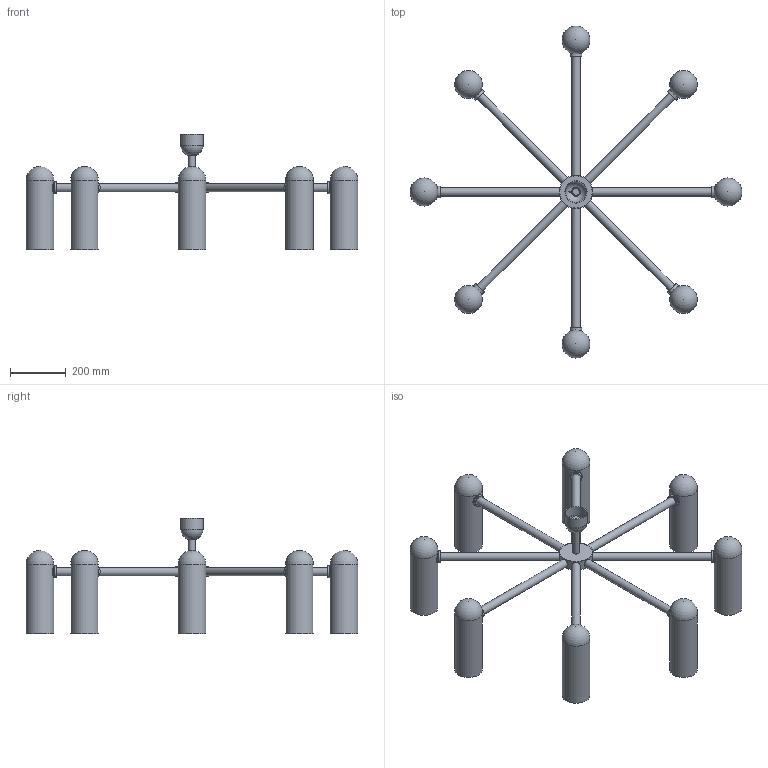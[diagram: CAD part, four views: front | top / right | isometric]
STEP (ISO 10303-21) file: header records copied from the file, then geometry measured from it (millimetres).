
FILE_DESCRIPTION(/* description */ (''),/* implementation_level */ '2;1');
FILE_NAME(/* name */ 'T:\B155 Odyssey Round Chandelier MD\Pliki bryłowe handlowe\B155 Odyssey Round MD 3D files_na stronę\B155 Odyssey Round MD.stp',/* time_stamp */ '2022-02-02T13:50:30+01:00',/* author */ ('Mariusz Awariusz'),/* organization */ (''),/* preprocessor_version */ 'ST-DEVELOPER v18.1',/* originating_system */ 'Autodesk Inventor 2022',/* authorisation */ '');
FILE_SCHEMA (('AUTOMOTIVE_DESIGN { 1 0 10303 214 3 1 1 }'));
Length unit declared in the file: millimetre
Products named in the file (1): Odyssey Round Chandelier MD CE v7_na potrzeby plików 3D_2_korpusy
 bryłowe
Bounding box: 1190.4 x 1190.4 x 416 mm (x, y, z)
Volume: 21137965.9 mm3; surface area: 1344819 mm2
Topology: 38 solids, 38 shells, 155 faces, 254 edges, 166 vertices
Faces by surface type: plane 67, cylinder 51, bspline 17, sphere 11, cone 9
Full cylindrical faces by diameter (mm): 4 x1, 25 x1, 28 x2, 30 x9, 31.5 x1, 32 x1, 37 x8, 42 x8, 44 x8, 76 x1, 80 x1, 100 x8, 116 x1, 120 x1
Entity records: 14484 total; most frequent: CARTESIAN_POINT 11498, DIRECTION 662, ORIENTED_EDGE 492, AXIS2_PLACEMENT_3D 297, EDGE_CURVE 246, EDGE_LOOP 176, VERTEX_POINT 166, CIRCLE 158
